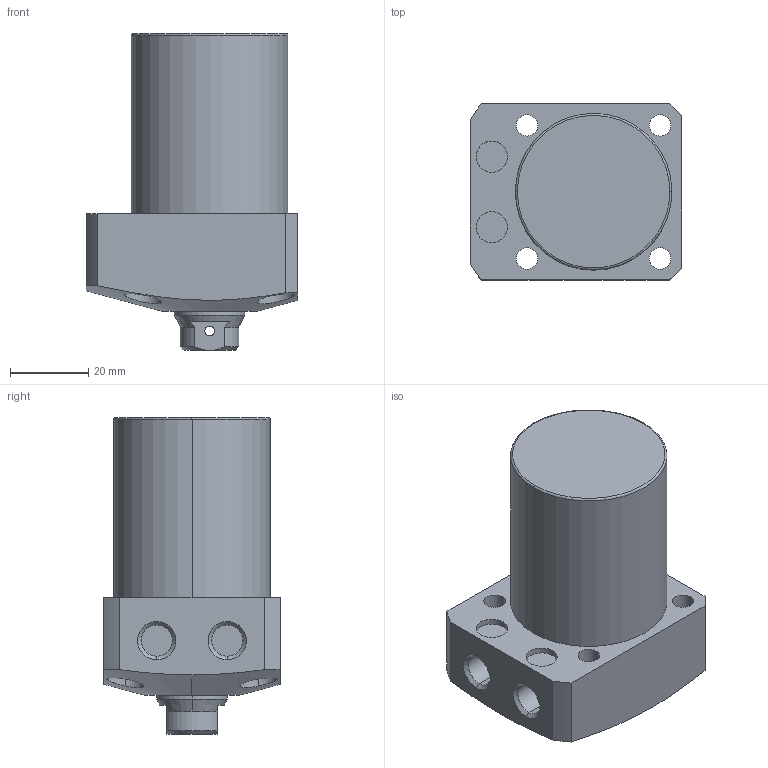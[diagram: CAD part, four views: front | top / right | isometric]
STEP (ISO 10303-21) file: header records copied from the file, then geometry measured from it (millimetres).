
FILE_DESCRIPTION (( 'STEP AP203' ), '1' );
FILE_NAME ('CLL-0400-CB-35.STEP', '2017-05-09T05:47:23', ( '' ), ( '' ), 'SwSTEP 2.0', 'SolidWorks 2015', '' );
FILE_SCHEMA (( 'CONFIG_CONTROL_DESIGN' ));
Length unit declared in the file: millimetre
Products named in the file (1): CLL-0400-CB-35
Bounding box: 54 x 45 x 81 mm (x, y, z)
Volume: 109221.4 mm3; surface area: 17708.9 mm2
Topology: 1 solids, 1 shells, 78 faces, 182 edges, 115 vertices
Faces by surface type: cylinder 39, plane 22, cone 15, torus 2
Entity records: 2728 total; most frequent: CARTESIAN_POINT 829, DIRECTION 394, ORIENTED_EDGE 360, EDGE_CURVE 180, AXIS2_PLACEMENT_3D 163, VERTEX_POINT 115, EDGE_LOOP 101, CIRCLE 84
